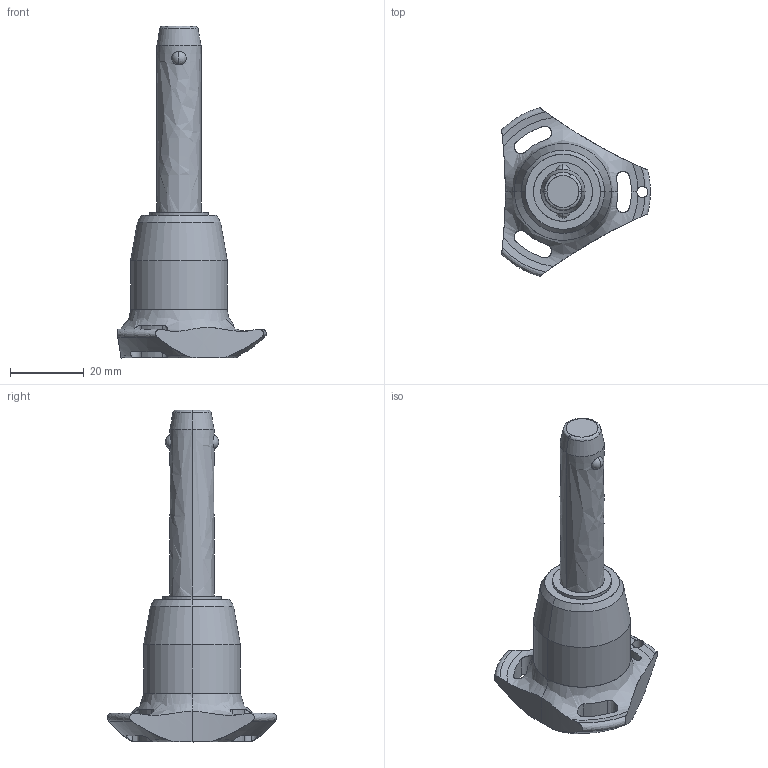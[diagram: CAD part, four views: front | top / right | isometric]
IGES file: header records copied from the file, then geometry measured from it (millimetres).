
Start section: SolidWorks IGES file using analytic representation for surfaces
Global section: file name: C:\Users\ianosborn\Desktop\QR1734_v2\QR1734_v2_20251113_IGES\QR1734.M12-040-S.igs; native system: SolidWorks 2019; preprocessor: SolidWorks 2019; author: IanOsborn; date: 251112.143053; units: millimetre
Bounding box: 40.5 x 45.88 x 90.3 mm (x, y, z)
Surface area: 7845.6 mm2 (no closed solid volume)
Topology: 0 solids, 0 shells, 65 faces, 1363 edges, 1359 vertices
Faces by surface type: revolution 50, bspline 15
